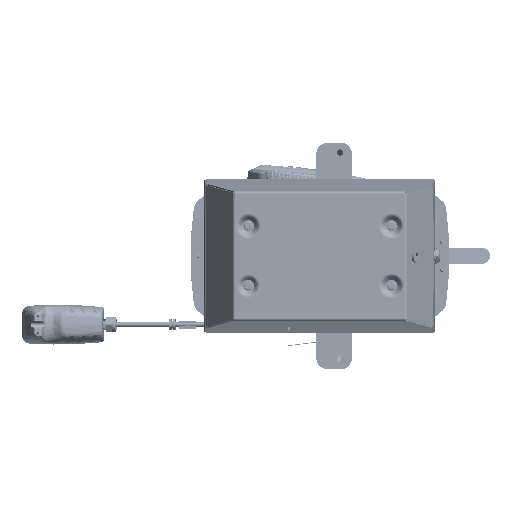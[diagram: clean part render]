
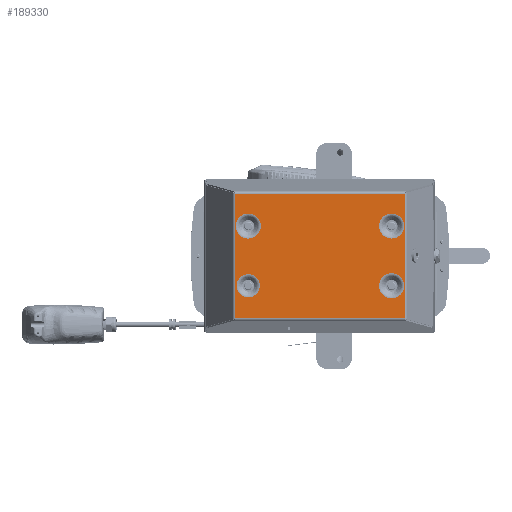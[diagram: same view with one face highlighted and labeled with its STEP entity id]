
A CAD part, front view. The second image highlights one B-rep face of the part: STEP entity #189330.
In plain terms, the highlighted planar face has unit normal (0, -1, 0).
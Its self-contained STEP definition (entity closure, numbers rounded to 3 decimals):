
#49069=DIRECTION('',(1.,0.,0.));
#49070=VECTOR('',#49069,10.647);
#49071=CARTESIAN_POINT('',(-3.387,-5.25,
3.907));
#49072=LINE('',#49071,#49070);
#49091=CARTESIAN_POINT('',(6.436,-5.25,1.88));
#49092=DIRECTION('',(0.,1.,0.));
#49093=DIRECTION('',(0.,0.,-1.));
#49094=AXIS2_PLACEMENT_3D('',#49091,#49092,#49093);
#49096=CARTESIAN_POINT('',(6.436,-5.25,1.88));
#49097=DIRECTION('',(0.,1.,0.));
#49098=DIRECTION('',(0.,0.,1.));
#49099=AXIS2_PLACEMENT_3D('',#49096,#49097,#49098);
#49101=CARTESIAN_POINT('',(-2.564,-5.25,-1.87));
#49102=DIRECTION('',(0.,1.,0.));
#49103=DIRECTION('',(0.,0.,-1.));
#49104=AXIS2_PLACEMENT_3D('',#49101,#49102,#49103);
#49106=CARTESIAN_POINT('',(-2.564,-5.25,-1.87));
#49107=DIRECTION('',(0.,1.,0.));
#49108=DIRECTION('',(0.,0.,1.));
#49109=AXIS2_PLACEMENT_3D('',#49106,#49107,#49108);
#49111=CARTESIAN_POINT('',(6.436,-5.25,-1.87));
#49112=DIRECTION('',(0.,1.,0.));
#49113=DIRECTION('',(0.,0.,-1.));
#49114=AXIS2_PLACEMENT_3D('',#49111,#49112,#49113);
#49116=CARTESIAN_POINT('',(6.436,-5.25,-1.87));
#49117=DIRECTION('',(0.,1.,0.));
#49118=DIRECTION('',(0.,0.,1.));
#49119=AXIS2_PLACEMENT_3D('',#49116,#49117,#49118);
#49121=CARTESIAN_POINT('',(-2.564,-5.25,1.88));
#49122=DIRECTION('',(0.,1.,0.));
#49123=DIRECTION('',(0.,0.,-1.));
#49124=AXIS2_PLACEMENT_3D('',#49121,#49122,#49123);
#49126=CARTESIAN_POINT('',(-2.564,-5.25,1.88));
#49127=DIRECTION('',(0.,1.,0.));
#49128=DIRECTION('',(0.,0.,1.));
#49129=AXIS2_PLACEMENT_3D('',#49126,#49127,#49128);
#49131=DIRECTION('',(1.,0.,0.));
#49132=VECTOR('',#49131,10.647);
#49133=CARTESIAN_POINT('',(-3.387,-5.25,
-3.907));
#49134=LINE('',#49133,#49132);
#49197=DIRECTION('',(0.,0.,-1.));
#49198=VECTOR('',#49197,7.814);
#49199=CARTESIAN_POINT('',(7.259,-5.25,
3.907));
#49200=LINE('',#49199,#49198);
#49916=DIRECTION('',(0.,0.,-1.));
#49917=VECTOR('',#49916,7.814);
#49918=CARTESIAN_POINT('',(-3.387,-5.25,
3.907));
#49919=LINE('',#49918,#49917);
#131901=CARTESIAN_POINT('',(6.436,-5.25,1.093));
#131902=CARTESIAN_POINT('',(6.436,-5.25,2.667));
#131903=VERTEX_POINT('',#131901);
#131904=VERTEX_POINT('',#131902);
#131905=CARTESIAN_POINT('',(-2.564,-5.25,-2.599));
#131906=CARTESIAN_POINT('',(-2.564,-5.25,-1.141));
#131907=VERTEX_POINT('',#131905);
#131908=VERTEX_POINT('',#131906);
#131909=CARTESIAN_POINT('',(6.436,-5.25,-2.657));
#131910=CARTESIAN_POINT('',(6.436,-5.25,-1.083));
#131911=VERTEX_POINT('',#131909);
#131912=VERTEX_POINT('',#131910);
#131913=CARTESIAN_POINT('',(-2.564,-5.25,1.093));
#131914=CARTESIAN_POINT('',(-2.564,-5.25,2.667));
#131915=VERTEX_POINT('',#131913);
#131916=VERTEX_POINT('',#131914);
#132029=CARTESIAN_POINT('',(-3.387,-5.25,
3.907));
#132030=CARTESIAN_POINT('',(7.259,-5.25,
3.907));
#132031=VERTEX_POINT('',#132029);
#132032=VERTEX_POINT('',#132030);
#132033=CARTESIAN_POINT('',(7.259,-5.25,
-3.907));
#132034=VERTEX_POINT('',#132033);
#132035=CARTESIAN_POINT('',(-3.387,-5.25,
-3.907));
#132036=VERTEX_POINT('',#132035);
#189292=CARTESIAN_POINT('',(1.936,-5.25,0.));
#189293=DIRECTION('',(0.,1.,0.));
#189294=DIRECTION('',(1.,0.,0.));
#189295=AXIS2_PLACEMENT_3D('',#189292,#189293,#189294);
#189296=PLANE('',#189295);
#189298=ORIENTED_EDGE('',*,*,#189297,.F.);
#189300=ORIENTED_EDGE('',*,*,#189299,.F.);
#189301=ORIENTED_EDGE('',*,*,#189279,.T.);
#189303=ORIENTED_EDGE('',*,*,#189302,.T.);
#189304=EDGE_LOOP('',(#189298,#189300,#189301,#189303));
#189305=FACE_OUTER_BOUND('',#189304,.F.);
#189307=ORIENTED_EDGE('',*,*,#189306,.F.);
#189309=ORIENTED_EDGE('',*,*,#189308,.F.);
#189310=EDGE_LOOP('',(#189307,#189309));
#189311=FACE_BOUND('',#189310,.F.);
#189313=ORIENTED_EDGE('',*,*,#189312,.F.);
#189315=ORIENTED_EDGE('',*,*,#189314,.F.);
#189316=EDGE_LOOP('',(#189313,#189315));
#189317=FACE_BOUND('',#189316,.F.);
#189319=ORIENTED_EDGE('',*,*,#189318,.F.);
#189321=ORIENTED_EDGE('',*,*,#189320,.F.);
#189322=EDGE_LOOP('',(#189319,#189321));
#189323=FACE_BOUND('',#189322,.F.);
#189325=ORIENTED_EDGE('',*,*,#189324,.F.);
#189327=ORIENTED_EDGE('',*,*,#189326,.F.);
#189328=EDGE_LOOP('',(#189325,#189327));
#189329=FACE_BOUND('',#189328,.F.);
#189330=ADVANCED_FACE('',(#189305,#189311,#189317,#189323,#189329),#189296,.F.);
#49095=CIRCLE('',#49094,0.787);
#49100=CIRCLE('',#49099,0.787);
#49105=CIRCLE('',#49104,0.729);
#49110=CIRCLE('',#49109,0.729);
#49115=CIRCLE('',#49114,0.787);
#49120=CIRCLE('',#49119,0.787);
#49125=CIRCLE('',#49124,0.787);
#49130=CIRCLE('',#49129,0.787);
#189279=EDGE_CURVE('',#132031,#132032,#49072,.T.);
#189297=EDGE_CURVE('',#132036,#132034,#49134,.T.);
#189299=EDGE_CURVE('',#132031,#132036,#49919,.T.);
#189302=EDGE_CURVE('',#132032,#132034,#49200,.T.);
#189306=EDGE_CURVE('',#131903,#131904,#49095,.T.);
#189308=EDGE_CURVE('',#131904,#131903,#49100,.T.);
#189312=EDGE_CURVE('',#131907,#131908,#49105,.T.);
#189314=EDGE_CURVE('',#131908,#131907,#49110,.T.);
#189318=EDGE_CURVE('',#131911,#131912,#49115,.T.);
#189320=EDGE_CURVE('',#131912,#131911,#49120,.T.);
#189324=EDGE_CURVE('',#131915,#131916,#49125,.T.);
#189326=EDGE_CURVE('',#131916,#131915,#49130,.T.);
